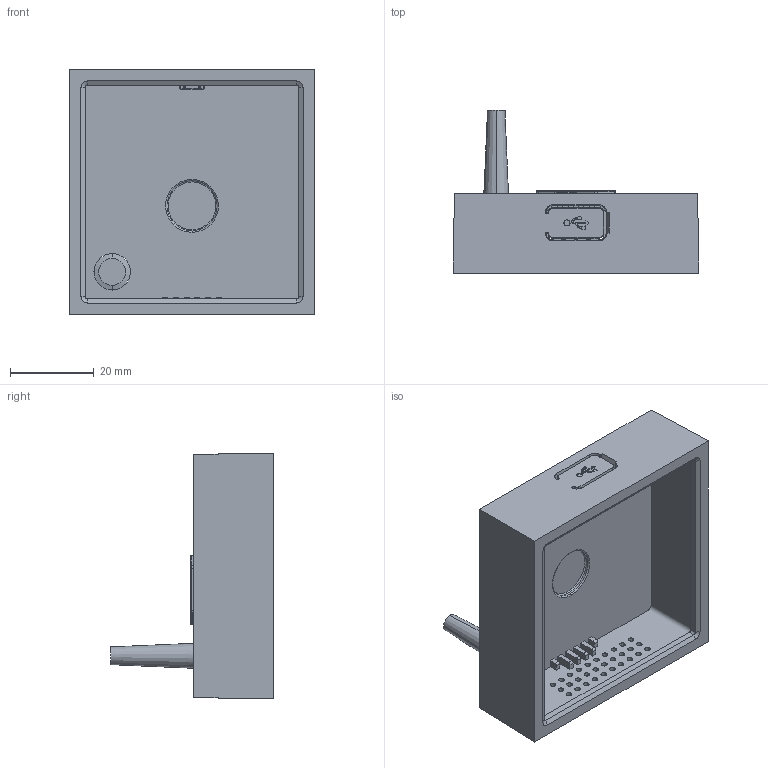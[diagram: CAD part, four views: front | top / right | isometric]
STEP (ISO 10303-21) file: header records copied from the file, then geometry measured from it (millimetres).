
FILE_DESCRIPTION (( 'STEP AP214' ), '1' );
FILE_NAME ('Thingy Top_14-02-2017.STEP', '2017-02-15T13:00:36', ( '' ), ( '' ), 'SwSTEP 2.0', 'SolidWorks 2016', '' );
FILE_SCHEMA (( 'AUTOMOTIVE_DESIGN' ));
Length unit declared in the file: millimetre
Products named in the file (1): Thingy Top_14-02-2017
Bounding box: 58.66 x 38.87 x 58.66 mm (x, y, z)
Volume: 15677.4 mm3; surface area: 16720.7 mm2
Topology: 2 solids, 2 shells, 994 faces, 2427 edges, 1553 vertices
Faces by surface type: plane 330, cone 240, bspline 195, cylinder 192, torus 31, sphere 6
Entity records: 43395 total; most frequent: CARTESIAN_POINT 22910, ORIENTED_EDGE 4854, DIRECTION 3110, EDGE_CURVE 2427, VERTEX_POINT 1553, EDGE_LOOP 1174, VECTOR 1116, LINE 1116
